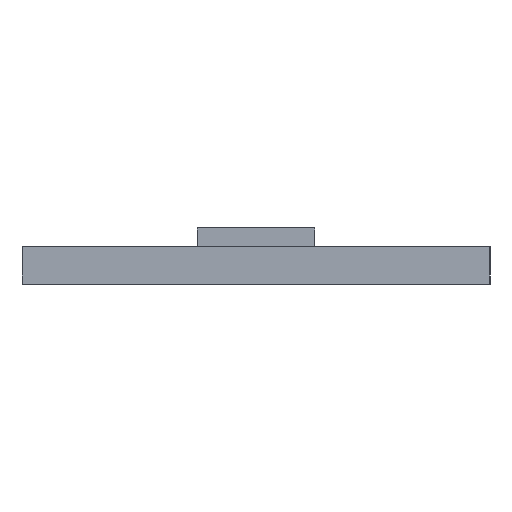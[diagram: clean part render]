
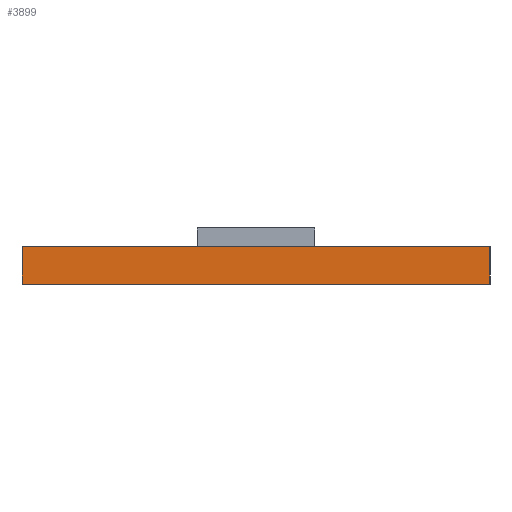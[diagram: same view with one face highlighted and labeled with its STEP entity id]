
A CAD part, left-side view. The second image highlights one B-rep face of the part: STEP entity #3899.
In plain terms, the highlighted planar face has unit normal (-1, 0, 0).
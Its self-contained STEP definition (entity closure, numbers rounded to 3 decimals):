
#1860=CARTESIAN_POINT('Vertex',(-17.,-10.,-1.6)) ;
#1863=CARTESIAN_POINT('Line Origine',(-17.,0.,-1.6)) ;
#1867=CARTESIAN_POINT('Vertex',(-17.,10.,-1.6)) ;
#3452=CARTESIAN_POINT('Vertex',(-17.,-10.,-0.004)) ;
#3455=CARTESIAN_POINT('Line Origine',(-17.,-10.,-0.802)) ;
#3825=CARTESIAN_POINT('Line Origine',(-17.,10.,-0.802)) ;
#3829=CARTESIAN_POINT('Vertex',(-17.,10.,-0.004)) ;
#3883=CARTESIAN_POINT('Axis2P3D Location',(-17.,-10.,0.)) ;
#3888=CARTESIAN_POINT('Line Origine',(-17.,0.,-0.004)) ;
#1864=DIRECTION('Vector Direction',(0.,1.,0.)) ;
#3456=DIRECTION('Vector Direction',(0.,0.,-1.)) ;
#3826=DIRECTION('Vector Direction',(0.,0.,-1.)) ;
#3884=DIRECTION('Axis2P3D Direction',(-1.,0.,0.)) ;
#3885=DIRECTION('Axis2P3D XDirection',(0.,1.,0.)) ;
#3889=DIRECTION('Vector Direction',(0.,-1.,0.)) ;
#3886=AXIS2_PLACEMENT_3D('Plane Axis2P3D',#3883,#3884,#3885) ;
#3894=ORIENTED_EDGE('',*,*,#3831,.T.) ;
#3895=ORIENTED_EDGE('',*,*,#1869,.F.) ;
#3896=ORIENTED_EDGE('',*,*,#3459,.F.) ;
#3897=ORIENTED_EDGE('',*,*,#3892,.F.) ;
#1865=VECTOR('Line Direction',#1864,1.) ;
#3457=VECTOR('Line Direction',#3456,1.) ;
#3827=VECTOR('Line Direction',#3826,1.) ;
#3890=VECTOR('Line Direction',#3889,1.) ;
#3899=ADVANCED_FACE('PCB',(#3898),#3887,.T.) ;
#1869=EDGE_CURVE('',#1861,#1868,#1866,.T.) ;
#3459=EDGE_CURVE('',#3453,#1861,#3458,.T.) ;
#3831=EDGE_CURVE('',#3830,#1868,#3828,.T.) ;
#3892=EDGE_CURVE('',#3830,#3453,#3891,.T.) ;
#3893=EDGE_LOOP('',(#3894,#3895,#3896,#3897)) ;
#3898=FACE_OUTER_BOUND('',#3893,.T.) ;
#1866=LINE('Line',#1863,#1865) ;
#3458=LINE('Line',#3455,#3457) ;
#3828=LINE('Line',#3825,#3827) ;
#3891=LINE('Line',#3888,#3890) ;
#3887=PLANE('',#3886) ;
#1861=VERTEX_POINT('',#1860) ;
#1868=VERTEX_POINT('',#1867) ;
#3453=VERTEX_POINT('',#3452) ;
#3830=VERTEX_POINT('',#3829) ;
